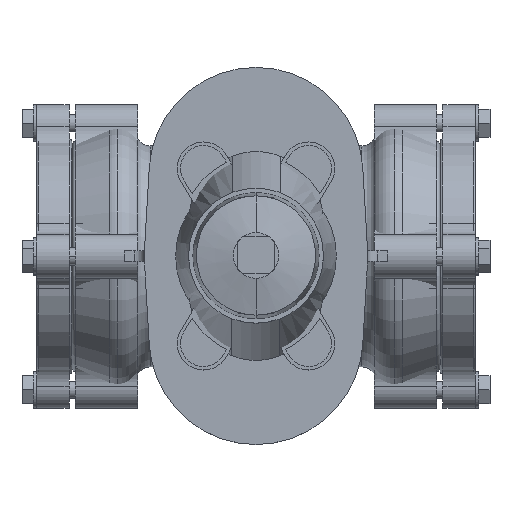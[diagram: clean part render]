
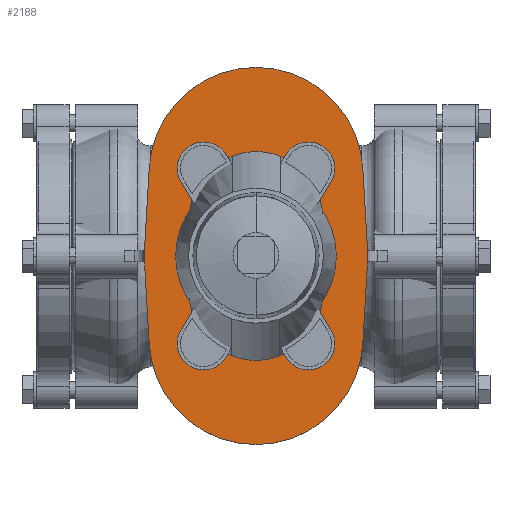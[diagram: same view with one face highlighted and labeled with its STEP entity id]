
A CAD part, top view. The second image highlights one B-rep face of the part: STEP entity #2188.
In plain terms, the highlighted planar face has unit normal (0, 0, 1).
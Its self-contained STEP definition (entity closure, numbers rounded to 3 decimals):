
#2188=ADVANCED_FACE('',(#4360),#4361,.T.);
#4360=FACE_OUTER_BOUND('',#7207,.T.);
#4361=PLANE('',#7208);
#7207=EDGE_LOOP('',(#11064,#11065,#11066,#11067,#11068,#11069,#11070,#11071,#11072,#11073));
#7208=AXIS2_PLACEMENT_3D('',#11074,#11075,#11076);
#11064=ORIENTED_EDGE('',*,*,#16395,.F.);
#11065=ORIENTED_EDGE('',*,*,#16396,.F.);
#11066=ORIENTED_EDGE('',*,*,#16397,.F.);
#11067=ORIENTED_EDGE('',*,*,#16117,.F.);
#11068=ORIENTED_EDGE('',*,*,#16398,.F.);
#11069=ORIENTED_EDGE('',*,*,#16042,.F.);
#11070=ORIENTED_EDGE('',*,*,#16399,.F.);
#11071=ORIENTED_EDGE('',*,*,#16200,.F.);
#11072=ORIENTED_EDGE('',*,*,#15730,.F.);
#11073=ORIENTED_EDGE('',*,*,#16400,.F.);
#11074=CARTESIAN_POINT('',(35.,0.006,158.0));
#11075=DIRECTION('',(0.0,0.0,1.0));
#11076=DIRECTION('',(1.0,0.0,0.0));
#15730=EDGE_CURVE('',#18560,#18558,#18562,.T.);
#16042=EDGE_CURVE('',#19073,#19074,#19075,.T.);
#16117=EDGE_CURVE('',#19188,#19186,#19190,.T.);
#16200=EDGE_CURVE('',#18558,#19316,#19317,.T.);
#16395=EDGE_CURVE('',#19604,#19605,#19606,.T.);
#16396=EDGE_CURVE('',#19607,#19604,#19608,.T.);
#16397=EDGE_CURVE('',#19186,#19607,#19609,.T.);
#16398=EDGE_CURVE('',#19074,#19188,#19610,.T.);
#16399=EDGE_CURVE('',#19316,#19073,#19611,.T.);
#16400=EDGE_CURVE('',#19605,#18560,#19612,.T.);
#18558=VERTEX_POINT('',#22360);
#18560=VERTEX_POINT('',#22363);
#18562=CIRCLE('',#22366,167.639);
#19073=VERTEX_POINT('',#23024);
#19074=VERTEX_POINT('',#23025);
#19075=CIRCLE('',#23026,61.);
#19186=VERTEX_POINT('',#23173);
#19188=VERTEX_POINT('',#23176);
#19190=CIRCLE('',#23179,167.639);
#19316=VERTEX_POINT('',#23339);
#19317=CIRCLE('',#23340,167.639);
#19604=VERTEX_POINT('',#23729);
#19605=VERTEX_POINT('',#23730);
#19606=CIRCLE('',#23731,60.99);
#19607=VERTEX_POINT('',#23732);
#19608=LINE('',#23733,#23734);
#19609=CIRCLE('',#23735,167.639);
#19610=LINE('',#23736,#23737);
#19611=LINE('',#23738,#23739);
#19612=LINE('',#23740,#23741);
#22360=CARTESIAN_POINT('',(-28.5,0.,158.0));
#22363=CARTESIAN_POINT('',(-28.221,-9.675,158.0));
#22366=AXIS2_PLACEMENT_3D('',#26540,#26541,#26542);
#23024=CARTESIAN_POINT('',(-25.899,50.005,158.0));
#23025=CARTESIAN_POINT('',(95.899,50.005,158.0));
#23026=AXIS2_PLACEMENT_3D('',#26963,#26964,#26965);
#23173=CARTESIAN_POINT('',(98.5,0.,158.0));
#23176=CARTESIAN_POINT('',(98.223,9.633,158.0));
#23179=AXIS2_PLACEMENT_3D('',#27058,#27059,#27060);
#23339=CARTESIAN_POINT('',(-28.223,9.633,158.0));
#23340=AXIS2_PLACEMENT_3D('',#27170,#27171,#27172);
#23729=CARTESIAN_POINT('',(95.888,-50.02,158.0));
#23730=CARTESIAN_POINT('',(-25.888,-50.02,158.0));
#23731=AXIS2_PLACEMENT_3D('',#27374,#27375,#27376);
#23732=CARTESIAN_POINT('',(98.221,-9.674,158.0));
#23733=CARTESIAN_POINT('',(98.221,-9.674,158.0));
#23734=VECTOR('',#27377,1.0);
#23735=AXIS2_PLACEMENT_3D('',#27378,#27379,#27380);
#23736=CARTESIAN_POINT('',(95.899,50.005,158.0));
#23737=VECTOR('',#27381,1.0);
#23738=CARTESIAN_POINT('',(-28.223,9.633,158.0));
#23739=VECTOR('',#27382,1.0);
#23740=CARTESIAN_POINT('',(-25.888,-50.02,158.0));
#23741=VECTOR('',#27383,1.0);
#26540=CARTESIAN_POINT('',(139.139,0.,158.0));
#26541=DIRECTION('',(0.0,0.0,-1.0));
#26542=DIRECTION('',(-1.0,0.0,0.0));
#26963=CARTESIAN_POINT('',(35.0,46.5,158.0));
#26964=DIRECTION('',(0.0,0.0,-1.0));
#26965=DIRECTION('',(-1.0,0.0,0.0));
#27058=CARTESIAN_POINT('',(-69.139,0.,158.0));
#27059=DIRECTION('',(0.0,0.0,-1.0));
#27060=DIRECTION('',(-1.0,0.0,0.0));
#27170=CARTESIAN_POINT('',(139.139,0.,158.0));
#27171=DIRECTION('',(0.0,0.0,-1.0));
#27172=DIRECTION('',(-1.0,0.0,0.0));
#27374=CARTESIAN_POINT('',(35.,-46.5,158.0));
#27375=DIRECTION('',(0.0,0.0,-1.0));
#27376=DIRECTION('',(-1.0,0.0,0.0));
#27377=DIRECTION('',(-0.058,-0.998,0.0));
#27378=CARTESIAN_POINT('',(-69.139,0.,158.0));
#27379=DIRECTION('',(0.0,0.0,-1.0));
#27380=DIRECTION('',(-1.0,0.0,0.0));
#27381=DIRECTION('',(0.057,-0.998,0.0));
#27382=DIRECTION('',(0.057,0.998,0.0));
#27383=DIRECTION('',(-0.058,0.998,0.0));
